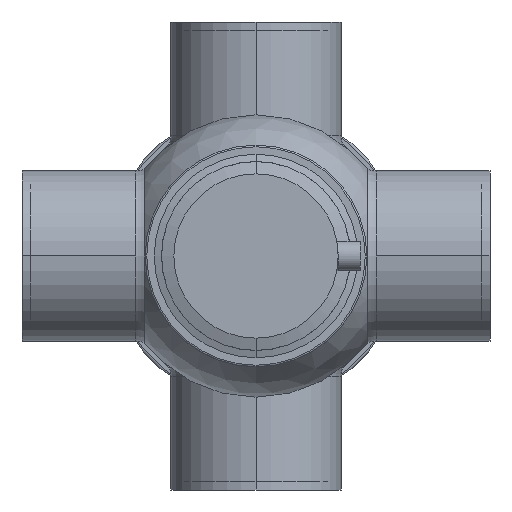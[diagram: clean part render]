
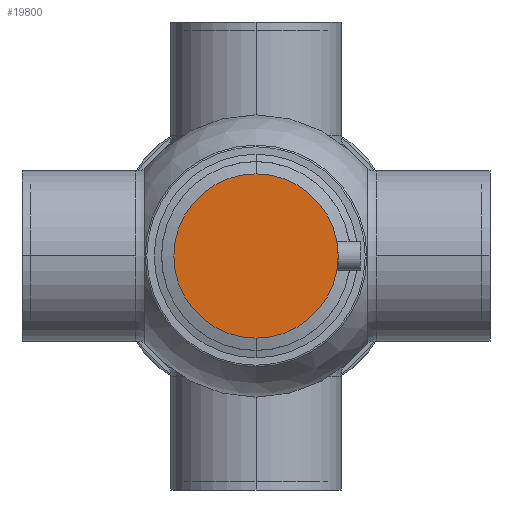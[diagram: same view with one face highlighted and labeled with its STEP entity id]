
A CAD part, front view. The second image highlights one B-rep face of the part: STEP entity #19800.
In plain terms, the highlighted planar face has unit normal (0, -1, 0) as drawn and (0, 0, -1) by its records, which use the part's own axes.
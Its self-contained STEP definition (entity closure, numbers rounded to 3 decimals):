
#11030=CARTESIAN_POINT('',(50.,34.1,-20.));
#11040=VERTEX_POINT('',#11030);
#11090=CARTESIAN_POINT('',(0.,34.1,-20.));
#11100=DIRECTION('',(0.,0.,1.));
#11110=DIRECTION('',(1.,0.,0.));
#11120=AXIS2_PLACEMENT_3D('',#11090,#11100,#11110);
#11130=CIRCLE('',#11120,50.);
#11140=CARTESIAN_POINT('',(-50.,34.1,-20.));
#11150=VERTEX_POINT('',#11140);
#11160=EDGE_CURVE('',#11150,#11040,#11130,.T.);
#19700=CARTESIAN_POINT('',(-48.25,34.1,-20.));
#19710=DIRECTION('',(0.,0.,-1.));
#19720=DIRECTION('',(-1.,0.,0.));
#19730=AXIS2_PLACEMENT_3D('',#19700,#19710,#19720);
#19740=PLANE('',#19730);
#19750=EDGE_CURVE('',#11040,#11150,#11130,.T.);
#19760=ORIENTED_EDGE('',*,*,#19750,.F.);
#19770=ORIENTED_EDGE('',*,*,#11160,.F.);
#19780=EDGE_LOOP('',(#19770,#19760));
#19790=FACE_OUTER_BOUND('',#19780,.T.);
#19800=ADVANCED_FACE('',(#19790),#19740,.T.);
